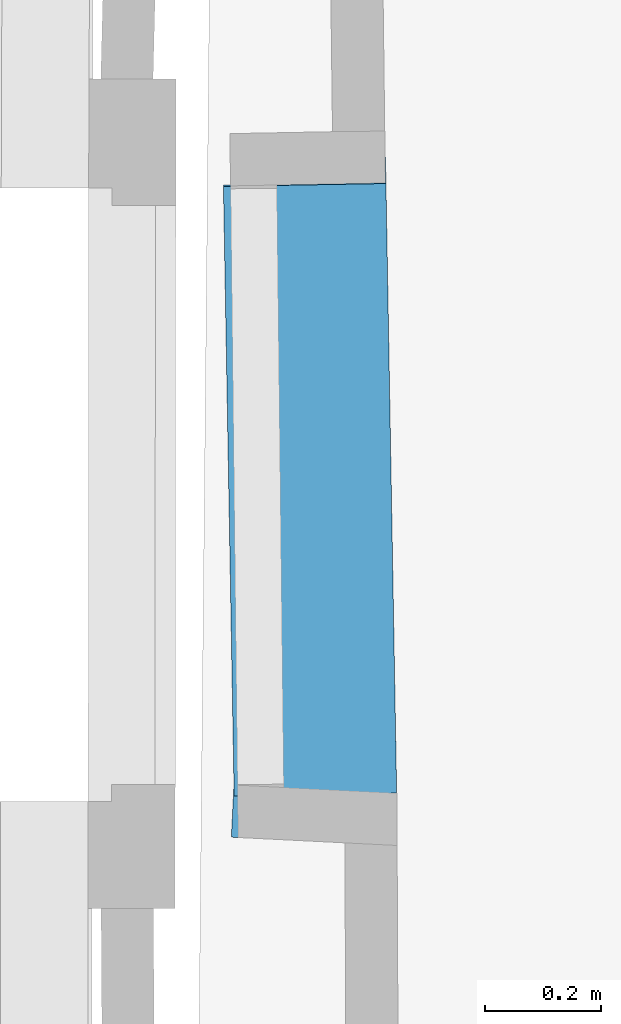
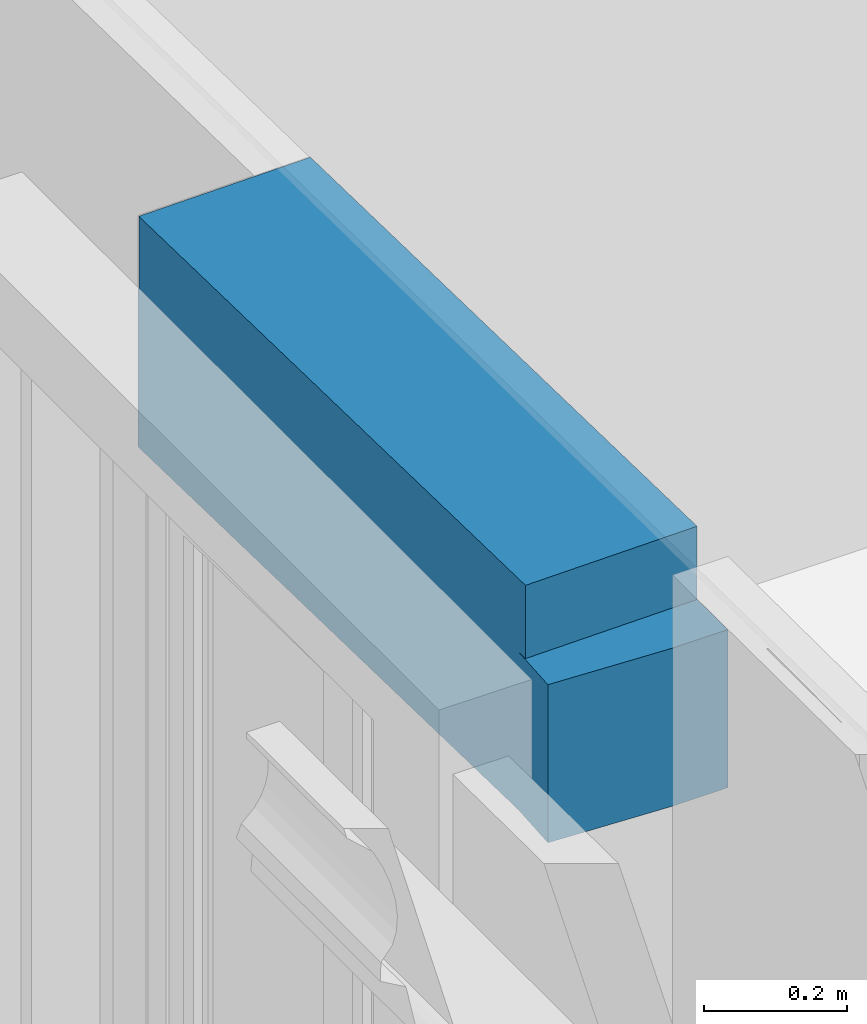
# One storey, part 47 of 72: 1 wall.
"""IFC2X3 building model written with IfcOpenShell, lengths in centimetres."""

from ifc_helpers import new_model, entity, si_unit, converted_unit, direction, frame, origin, origin_with_axes, place, context, subcontext, project, spatial, faceted_brep, material, layer, layer_set, layer_usage, type_object, element, save


model = new_model("IFC2X3")

# Units and contexts
model_context = context("Model", 3, precision=0.0001, world=origin(), true_north=direction((0.225632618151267, 0.974212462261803, 0.0)))
body_context = subcontext(model_context, "Body", "Model", "MODEL_VIEW")
ifc_project = project(units=[si_unit("LENGTHUNIT", "METRE", prefix="CENTI"), si_unit("AREAUNIT", "SQUARE_METRE", prefix="CENTI"), si_unit("VOLUMEUNIT", "CUBIC_METRE", prefix="CENTI"), converted_unit("PLANEANGLEUNIT", "DEGREE", entity("IfcRatioMeasure", 0.0174532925), si_unit("PLANEANGLEUNIT", "RADIAN"), dimensions=[0, 0, 0, 0, 0, 0, 0])], contexts=[model_context])

# Site, building, storey
site_placement = place(None, origin_with_axes())
site = spatial("IfcSite", under=ifc_project, at=site_placement, Name="Default Site", CompositionType="ELEMENT")
building_placement = place(site_placement, origin_with_axes())
building = spatial("IfcBuilding", under=site, at=building_placement, Name="Default Building", CompositionType="ELEMENT")
storey_placement = place(building_placement, frame((0.0, 0.0, 853.910374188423), z_axis=(0.0, 0.0, 1.0), x_axis=(1.0, 0.0, 0.0)))
storey = spatial("IfcBuildingStorey", under=building, at=storey_placement, Name="Niveau 2", CompositionType="ELEMENT", Elevation=853.910374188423)

# Wall
ifc_material = material(Name="<aucun>")
ifc_layer = layer(ifc_material, 28.0)
ifc_layer_set = layer_set([ifc_layer], Name="default")
ifc_layer_usage = layer_usage(ifc_layer_set, "AXIS2", "POSITIVE", -14.0)
wall_type = type_object("IfcWallType", Name="default 280", PredefinedType="NOTDEFINED", material=ifc_layer_set)
wall_placement = place(storey_placement, frame((-1220.66469078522, 407.478645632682, 208.000000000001), z_axis=(0.0, 0.0, 1.0), x_axis=(-0.0175560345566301, 0.999845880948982, 0.0)))
element("IfcWall", 1, at=wall_placement, inside=storey, type_object=wall_type, material=ifc_layer_usage, Name="Enveloppe 172572", context=body_context, shape_type="Brep", body=[
    faceted_brep([(105.238678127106, 13.9999790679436, -3.10182583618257e-05), (1.89914987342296, 13.999979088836, -3.10182583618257e-05), (1.89914987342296, 13.999979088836, 0.999991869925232), (105.238678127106, 13.9999790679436, 0.999991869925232), (109.624942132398, -4.92721815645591, -3.10182583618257e-05), (105.238679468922, -4.9039289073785, -3.10182583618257e-05), (105.238679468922, -4.9039289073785, 0.999991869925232), (109.624942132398, -4.92721815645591, 0.999991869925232), (105.238679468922, -4.9039289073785, 7.00003383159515), (109.624942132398, -4.92721815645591, 7.00003383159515), (1.89914987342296, 13.999979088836, 7.00003383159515), (105.238678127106, 13.9999790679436, 7.00003383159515), (105.238679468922, -4.9039289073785, 14.000003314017), (109.624942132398, -4.92721815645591, 14.000003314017), (1.89914987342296, 13.999979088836, 14.000003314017), (105.238678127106, 13.9999790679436, 14.000003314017), (105.238679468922, -4.9039289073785, 21.9999956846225), (109.624942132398, -4.92721815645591, 21.9999956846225), (1.89914987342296, 13.999979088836, 21.9999956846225), (105.238678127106, 13.9999790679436, 21.9999956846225), (105.238679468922, -4.9039289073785, 26.0075258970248), (109.624942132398, -4.92721815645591, 26.0075258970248), (1.89914987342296, 13.999979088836, 26.0075258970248), (105.027215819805, 13.9999790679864, 26.0075258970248), (105.238678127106, 13.9999790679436, 26.0075258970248), (105.238679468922, -4.9039289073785, 27.0000147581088), (109.624942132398, -4.92721815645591, 27.0000147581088), (105.027215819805, 13.9999790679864, 27.0000147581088), (105.238678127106, 13.9999790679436, 27.0000147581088), (105.027215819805, 13.999972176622, 26.0075258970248), (1.89914987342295, 13.9999721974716, 26.0075258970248), (1.89914987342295, 13.9999721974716, 27.0000147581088), (1.89914987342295, 13.9999721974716, 28.9999651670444), (105.027215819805, 13.999972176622, 28.9999651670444), (105.027215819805, 13.999972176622, 27.0000147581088), (-4.40320269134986e-06, 13.9999997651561, 28.9999651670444), (1.89914987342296, 13.9999997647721, 28.9999651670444), (1.89914987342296, 13.9999997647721, 27.0000147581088), (-4.40320269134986e-06, 13.9999997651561, 27.0000147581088), (-4.4032026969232e-06, 13.9999721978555, 28.9999651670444), (-4.4032026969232e-06, 13.9999721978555, 39.5000147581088), (105.027215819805, 13.999972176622, 39.5000147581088), (-2.74438393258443, -13.9999774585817, -3.10182583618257e-05), (-1.89379516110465e-06, -13.9999774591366, -3.10182583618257e-05), (-1.89379516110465e-06, -13.9999774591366, 0.999991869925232), (-2.72874106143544, -13.9999774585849, 0.999991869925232), (-2.74438393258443, -13.9999774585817, 0.999991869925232), (-8.52153755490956, -13.9253402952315, -3.10182583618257e-05), (-2.95269926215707, -13.9973153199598, -3.10182583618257e-05), (-2.95269926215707, -13.9973153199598, 0.999991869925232), (-8.52153755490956, -13.9253402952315, 0.999991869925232), (-2.9526995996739, -14.000039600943, -3.10182583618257e-05), (-2.74438393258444, -14.0000396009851, -3.10182583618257e-05), (-2.74438393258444, -14.0000396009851, 0.999991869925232), (-2.9526995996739, -14.000039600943, 0.999991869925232), (-1.893795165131e-06, -13.9999973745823, -3.10182583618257e-05), (109.568647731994, -13.999997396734, -3.10182583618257e-05), (109.568647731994, -13.999997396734, 0.999991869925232), (-1.893795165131e-06, -13.9999973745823, 0.999991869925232), (-2.95269926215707, -13.9973153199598, 2.00001475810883), (-2.95269926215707, -13.9973153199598, 7.00003383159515), (-8.52153755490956, -13.9253402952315, 7.00003383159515), (-2.72874470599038, -14.0001795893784, 0.999991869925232), (-2.72874470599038, -14.0001795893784, 7.00003383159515), (-2.74438393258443, -13.9999774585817, 7.00003383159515), (-2.74438393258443, -13.9999774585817, 2.00001475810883), (-2.72874106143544, -13.9999659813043, 0.999991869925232), (-1.89379515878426e-06, -13.999965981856, 0.999991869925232), (109.568647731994, -13.9999660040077, 0.999991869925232), (109.568647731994, -13.9999660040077, 7.00003383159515), (-2.72874106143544, -13.9999659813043, 7.00003383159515), (-2.95269887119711, -13.9972850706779, 7.00003383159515), (-2.95269887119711, -13.9972850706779, 2.00001475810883), (-2.74438393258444, -14.0000396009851, 2.00001475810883), (-2.9526995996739, -14.000039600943, 2.00001475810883), (-2.74438432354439, -14.0000077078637, 7.00003383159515), (-2.72874509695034, -14.0002098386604, 7.00003383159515), (-2.72874509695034, -14.0002098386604, 14.000003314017), (-2.74438432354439, -14.0000077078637, 14.000003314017), (-2.95269926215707, -13.9973153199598, 14.000003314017), (-8.52153755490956, -13.9253402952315, 14.000003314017), (109.568647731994, -13.9999660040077, 14.000003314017), (-2.72874106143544, -13.9999659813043, 14.000003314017), (-2.95269926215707, -13.9973153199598, 15.7035517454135), (-2.95269926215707, -13.9973153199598, 20.000045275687), (-2.95269926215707, -13.9973153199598, 21.9999956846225), (-8.52153755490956, -13.9253402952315, 21.9999956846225), (-2.74438393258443, -13.9999774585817, 14.000003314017), (-2.72874470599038, -14.0001795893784, 14.000003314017), (-2.72874470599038, -14.0001795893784, 21.9999956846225), (-2.74438393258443, -13.9999774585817, 21.9999956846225), (-2.74438393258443, -13.9999774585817, 20.000045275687), (-2.74438393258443, -13.9999774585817, 15.7035517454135), (109.568647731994, -13.9999660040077, 21.9999956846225), (-2.72874106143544, -13.9999659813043, 21.9999956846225), (-2.95269887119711, -13.9972850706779, 21.9999956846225), (-2.95269887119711, -13.9972850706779, 20.000045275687), (-2.95269887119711, -13.9972850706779, 15.7035517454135), (-2.95269887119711, -13.9972850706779, 14.000003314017), (-2.9526995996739, -14.000039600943, 15.7035517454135), (-2.74438393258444, -14.0000396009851, 15.7035517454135), (-2.74438393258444, -14.0000396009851, 20.000045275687), (-2.9526995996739, -14.000039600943, 20.000045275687), (-2.74438432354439, -14.0000077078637, 21.9999956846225), (-2.72874509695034, -14.0002098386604, 21.9999956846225), (-2.72874509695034, -14.0002098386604, 26.0075258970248), (-8.52153755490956, -13.9253402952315, 26.0075258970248), (109.568647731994, -13.9999660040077, 26.0075258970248), (105.218889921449, -13.9999660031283, 26.0075258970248), (105.027218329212, -13.9999660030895, 26.0075258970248), (-1.89379515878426e-06, -13.999965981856, 26.0075258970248), (-2.72874106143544, -13.9999659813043, 26.0075258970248), (-2.72874509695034, -14.0002098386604, 27.0000147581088), (-8.52153755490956, -13.9253402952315, 27.0000147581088), (-1.89379515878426e-06, -13.999965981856, 27.0000147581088), (-2.72874106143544, -13.9999659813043, 27.0000147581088), (105.027218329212, -14.0000249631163, 26.0075258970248), (105.218889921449, -14.000024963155, 26.0075258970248), (105.218889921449, -14.000024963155, 27.0000147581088), (105.027218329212, -14.0000249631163, 27.0000147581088), (-1.893795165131e-06, -13.9999973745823, 26.0075258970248), (105.027218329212, -13.9999973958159, 26.0075258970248), (105.027218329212, -13.9999973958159, 27.0000147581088), (105.027218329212, -13.9999973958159, 28.9999651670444), (-1.893795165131e-06, -13.9999973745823, 28.9999651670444), (-1.893795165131e-06, -13.9999973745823, 27.0000147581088), (105.218889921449, -13.9999567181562, 26.0075258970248), (109.568647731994, -13.9999567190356, 26.0075258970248), (109.568647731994, -13.9999567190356, 27.0000147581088), (105.218889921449, -13.9999567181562, 27.0000147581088), (105.027218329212, -13.9999973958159, 39.5000147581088), (-1.893795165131e-06, -13.9999973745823, 39.5000147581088), (1.89914987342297, 14.0000367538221, -3.10182583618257e-05), (105.238657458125, 12.7792789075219, -3.10182583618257e-05), (105.181148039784, 12.7796210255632, -3.10182583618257e-05), (105.095313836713, 12.780174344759, -3.10182583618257e-05), (1.85544351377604, 13.403998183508, -3.10182583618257e-05), (-0.818978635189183, 13.42014923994, -3.10182583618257e-05), (-7.1582619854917, 13.4583963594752, -3.10182583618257e-05), (-7.08025634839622, 14.6090520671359, -3.10182583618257e-05), (105.238657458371, 13.9999790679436, -3.10182583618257e-05), (105.238657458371, 13.9999790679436, 0.999991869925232), (105.238657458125, 12.7792789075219, 0.999991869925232), (-8.40522763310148, -4.92607538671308, -3.10182583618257e-05), (1.85513241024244, 13.3509711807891, -3.10182583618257e-05), (1.68016605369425, 10.7713813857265, -3.10182583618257e-05), (1.54593346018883, 8.79236531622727, -3.10182583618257e-05), (1.31633053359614, 5.40708818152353, -3.10182583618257e-05), (-2.95269872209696, -13.9972735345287, -3.10182583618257e-05), (-8.52153956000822, -13.9253402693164, -3.10182583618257e-05), (-8.52153956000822, -13.9253402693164, 0.999991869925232), (-8.40522763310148, -4.92607538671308, 0.999991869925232), (109.568647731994, -14.0000272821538, -3.10182583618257e-05), (101.023479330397, 4.80466169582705, -3.10182583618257e-05), (105.10482963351, 4.7800217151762, -3.10182583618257e-05), (105.120149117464, -8.07461103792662, -3.10182583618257e-05), (105.127110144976, -13.9034399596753, -3.10182583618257e-05), (109.577177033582, -13.9271143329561, -3.10182583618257e-05), (109.577153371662, -13.9271115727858, -3.10182583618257e-05), (109.577153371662, -13.9271115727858, 0.999991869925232), (109.568647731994, -14.0000272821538, 0.999991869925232), (105.100496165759, 8.43895638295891, -3.10182583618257e-05), (105.099544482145, 9.23760768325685, -3.10182583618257e-05), (105.23867961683, -4.90390105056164, -3.10182583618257e-05), (105.238679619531, 8.45388958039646, -3.10182583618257e-05), (105.238679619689, 9.2355463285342, -3.10182583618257e-05), (105.238679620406, 12.7792789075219, -3.10182583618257e-05), (105.238679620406, 12.7792789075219, 0.999991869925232), (105.23867961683, -4.90390105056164, 0.999991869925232), (109.624962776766, -4.92721826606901, -3.10182583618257e-05), (109.624962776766, -4.92721826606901, 0.999991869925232), (109.577177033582, -13.9271143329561, 0.999991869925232), (105.099544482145, 9.23760768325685, 0.999991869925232), (105.095313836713, 12.780174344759, 0.999991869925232), (1.85544351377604, 13.403998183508, 0.999991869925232), (1.85513241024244, 13.3509711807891, 0.999991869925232), (1.68016605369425, 10.7713813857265, 0.999991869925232), (100.683147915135, 7.96301694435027, -3.10182583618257e-05), (1.54593346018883, 8.79236531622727, 0.999991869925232), (1.31633053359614, 5.40708818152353, 0.999991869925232), (101.023479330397, 4.80466169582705, 0.999991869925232), (100.683147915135, 7.96301694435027, 0.999991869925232), (105.100496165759, 8.43895638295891, 0.999991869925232), (105.10482963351, 4.7800217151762, 0.999991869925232), (-8.52153956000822, -13.9253402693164, 7.00003383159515), (-8.40522763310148, -4.92607538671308, 7.00003383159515), (109.577153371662, -13.9271115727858, 7.00003383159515), (109.568647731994, -14.0000272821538, 7.00003383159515), (109.624962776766, -4.92721826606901, 7.00003383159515), (109.577177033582, -13.9271143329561, 7.00003383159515), (105.238679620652, 13.9999790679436, 0.999991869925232), (105.238679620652, 13.9999790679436, 7.00003383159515), (105.23867961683, -4.90390105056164, 7.00003383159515), (-8.52153956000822, -13.9253402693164, 14.000003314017), (-8.40522763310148, -4.92607538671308, 14.000003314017), (109.577153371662, -13.9271115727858, 14.000003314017), (109.568647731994, -14.0000272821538, 14.000003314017), (109.624962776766, -4.92721826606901, 14.000003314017), (109.577177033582, -13.9271143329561, 14.000003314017), (105.238679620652, 13.9999790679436, 14.000003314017), (105.23867961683, -4.90390105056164, 14.000003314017), (-8.52153956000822, -13.9253402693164, 21.9999956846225), (-8.40522763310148, -4.92607538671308, 21.9999956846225), (109.577153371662, -13.9271115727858, 21.9999956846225), (109.568647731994, -14.0000272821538, 21.9999956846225), (109.624962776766, -4.92721826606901, 21.9999956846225), (109.577177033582, -13.9271143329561, 21.9999956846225), (105.238679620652, 13.9999790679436, 21.9999956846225), (105.23867961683, -4.90390105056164, 21.9999956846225), (-8.52153956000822, -13.9253402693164, 26.0075258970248), (-8.40522763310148, -4.92607538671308, 26.0075258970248), (109.577153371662, -13.9271115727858, 26.0075258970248), (109.568647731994, -14.0000272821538, 26.0075258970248), (109.624962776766, -4.92721826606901, 26.0075258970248), (109.577177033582, -13.9271143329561, 26.0075258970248), (105.238679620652, 13.9999790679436, 26.0075258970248), (105.23867961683, -4.90390105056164, 26.0075258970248), (-7.08025634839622, 14.6090520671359, 27.0000147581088), (-8.40522763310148, -4.92607538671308, 27.0000147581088), (-2.72874440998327, -14.0001566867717, 27.0000147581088), (1.89914987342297, 14.0000367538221, 27.0000147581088), (-8.52153956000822, -13.9253402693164, 27.0000147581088), (105.23867961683, -4.90390105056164, 27.0000147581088), (105.21924097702, -13.9039130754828, 27.0000147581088), (109.577177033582, -13.9271143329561, 27.0000147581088), (105.238679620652, 13.9999790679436, 27.0000147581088), (109.624962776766, -4.92721826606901, 27.0000147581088), (105.027215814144, -14.0000249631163, 28.9999651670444), (105.027215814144, -14.0000249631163, 27.0000147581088), (-1.888134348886e-06, 13.9999997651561, 28.9999651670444), (-1.888134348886e-06, 13.9999997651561, 27.0000147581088), (109.568647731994, -14.0000272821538, 27.0000147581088), (109.577153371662, -13.9271115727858, 27.0000147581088), (-4.40320269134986e-06, 13.9999997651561, 39.5000147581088), (105.027218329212, -14.0000249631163, 39.5000147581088), (-4.40886350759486e-06, -13.9999973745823, 28.9999651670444), (-4.40886350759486e-06, -13.9999973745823, 39.5000147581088), (105.027218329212, -14.0000249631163, 28.9999651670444), (105.027218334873, 13.999972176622, 28.9999651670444), (105.027218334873, 13.999972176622, 39.5000147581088), (-7.15830067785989, 13.4583989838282, -3.10182583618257e-05), (-7.15830067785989, 13.4583989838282, 0.999991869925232), (-7.08025634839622, 14.6090520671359, 0.999991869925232), (-7.33144868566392, 10.9050037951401, -3.10182583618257e-05), (-7.46962571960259, 8.86777916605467, -3.10182583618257e-05), (-7.8374581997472, 3.44461030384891, -3.10182583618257e-05), (-8.40520938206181, -4.92607662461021, -3.10182583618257e-05), (-8.40520938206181, -4.92607662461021, 0.999991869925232), (-7.1582619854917, 13.4583963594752, 0.999991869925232), (-8.40524807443, -4.92607400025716, 0.999991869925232), (-8.40524807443, -4.92607400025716, 7.00003383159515), (-7.08025634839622, 14.6090520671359, 7.00003383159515), (-8.40524807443, -4.92607400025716, 14.000003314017), (-7.08025634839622, 14.6090520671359, 14.000003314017), (-8.40524807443, -4.92607400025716, 21.9999956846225), (-7.08025634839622, 14.6090520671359, 21.9999956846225), (-8.40524807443, -4.92607400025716, 26.0075258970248), (-7.08025634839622, 14.6090520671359, 26.0075258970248), (-8.40524807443, -4.92607400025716, 27.0000147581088), (-7.08025479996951, 14.6090748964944, -3.10182583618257e-05), (-7.08025479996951, 14.6090748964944, 0.999991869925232), (1.89914987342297, 14.0000367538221, 0.999991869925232), (-7.08025479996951, 14.6090748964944, 7.00003383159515), (1.89914987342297, 14.0000367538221, 7.00003383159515), (-7.08025479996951, 14.6090748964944, 14.000003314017), (1.89914987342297, 14.0000367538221, 14.000003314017), (-7.08025479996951, 14.6090748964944, 21.9999956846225), (1.89914987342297, 14.0000367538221, 21.9999956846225), (-7.08025479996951, 14.6090748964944, 26.0075258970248), (1.89914987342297, 14.0000367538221, 26.0075258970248), (-7.08025479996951, 14.6090748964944, 27.0000147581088)], [[[0, 1, 2, 3]], [[4, 5, 6, 7]], [[7, 6, 8, 9]], [[3, 2, 10, 11]], [[9, 8, 12, 13]], [[11, 10, 14, 15]], [[13, 12, 16, 17]], [[15, 14, 18, 19]], [[17, 16, 20, 21]], [[19, 18, 22, 23, 24]], [[21, 20, 25, 26]], [[24, 23, 27, 28]], [[29, 30, 31, 32, 33, 34]], [[35, 36, 37, 38]], [[33, 32, 39, 40, 41]], [[42, 43, 44, 45, 46]], [[47, 48, 49, 50]], [[51, 52, 53, 54]], [[55, 56, 57, 58]], [[50, 49, 59, 60, 61]], [[46, 62, 63, 64, 65]], [[66, 67, 68, 69, 70]], [[64, 71, 72, 65]], [[54, 53, 73, 74]], [[61, 60, 75, 76, 77, 78, 79, 80]], [[70, 69, 81, 82]], [[80, 79, 83, 84, 85, 86]], [[87, 88, 89, 90, 91, 92]], [[82, 81, 93, 94]], [[90, 95, 96, 91]], [[87, 92, 97, 98]], [[99, 100, 101, 102]], [[86, 85, 103, 104, 105, 106]], [[94, 93, 107, 108, 109, 110, 111]], [[106, 105, 112, 113]], [[111, 110, 114, 115]], [[116, 117, 118, 119]], [[120, 121, 122, 123, 124, 125]], [[126, 127, 128, 129]], [[124, 123, 130, 131]], [[132, 0, 133, 134, 135, 136, 137, 138, 139]], [[133, 140, 141, 142]], [[47, 143, 138, 136, 144, 145, 146, 147, 55, 42, 148]], [[143, 149, 150, 151]], [[152, 55, 147, 153, 154, 155, 156, 157]], [[152, 158, 159, 160]], [[157, 156, 154, 161, 162, 135, 133, 163, 4]], [[163, 164, 165, 166, 167, 168]], [[157, 169, 170, 171]], [[145, 144, 136, 135, 162]], [[172, 173, 174, 175, 176]], [[177, 153, 147, 146]], [[178, 179, 180, 181]], [[146, 145, 162, 161, 177]], [[181, 182, 172, 176, 178]], [[154, 153, 177, 161]], [[182, 181, 180, 183]], [[151, 150, 184, 185]], [[160, 159, 186, 187]], [[171, 170, 188, 189]], [[168, 167, 190, 191, 192]], [[185, 184, 193, 194]], [[187, 186, 195, 196]], [[189, 188, 197, 198]], [[192, 191, 199, 200]], [[194, 193, 201, 202]], [[196, 195, 203, 204]], [[198, 197, 205, 206]], [[200, 199, 207, 208]], [[202, 201, 209, 210]], [[204, 203, 211, 212]], [[206, 205, 213, 214]], [[208, 207, 215, 216]], [[217, 218, 113, 219, 125, 38, 220]], [[210, 209, 221, 218]], [[26, 222, 28, 34, 119, 129, 223, 224]], [[216, 215, 225, 222]], [[214, 213, 226, 224]], [[33, 227, 228, 34]], [[124, 229, 230, 125]], [[224, 223, 129, 231]], [[212, 211, 232, 231]], [[41, 233, 131, 234]], [[35, 235, 236, 233]], [[237, 238, 239, 234]], [[139, 240, 241, 242]], [[138, 243, 244, 245, 246, 247, 248]], [[242, 241, 249, 250, 251]], [[251, 250, 252, 253]], [[253, 252, 254, 255]], [[255, 254, 256, 257]], [[257, 256, 258, 217]], [[132, 259, 260, 261]], [[261, 260, 262, 263]], [[263, 262, 264, 265]], [[265, 264, 266, 267]], [[267, 266, 268, 269]], [[269, 268, 270, 220]]]),
])

save(model, "model.ifc")
